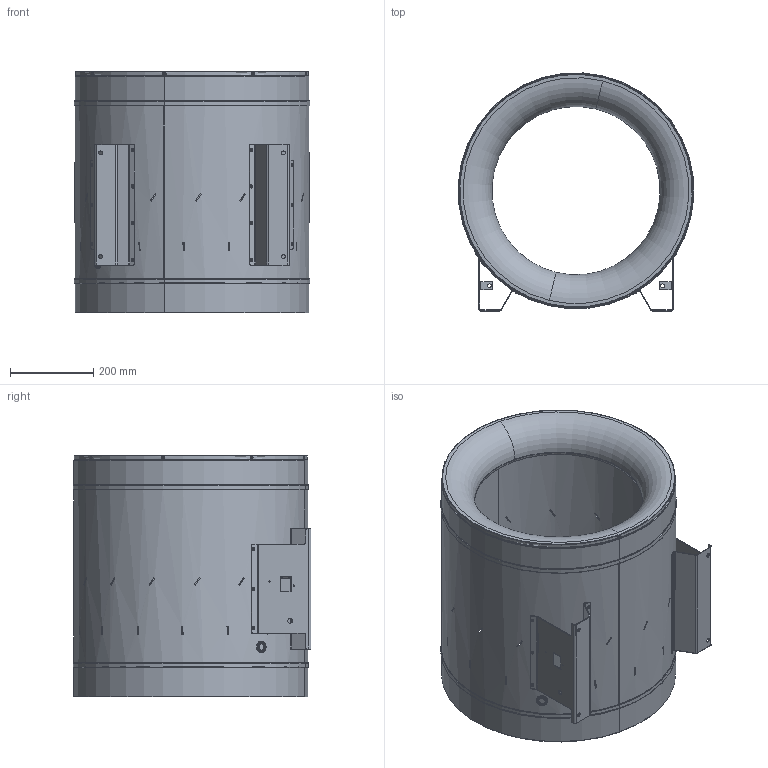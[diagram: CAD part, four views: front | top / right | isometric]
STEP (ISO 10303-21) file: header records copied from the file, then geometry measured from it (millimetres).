
FILE_DESCRIPTION (( 'STEP AP203' ), '1' );
FILE_NAME ('146537-00_EL560D402.STEP', '2018-06-08T09:34:44', ( '' ), ( '' ), 'SwSTEP 2.0', 'SolidWorks 2017', '' );
FILE_SCHEMA (( 'CONFIG_CONTROL_DESIGN' ));
Length unit declared in the file: millimetre
Products named in the file (1): 146537-00_EL560D402
Bounding box: 566.85 x 572.42 x 581.5 mm (x, y, z)
Surface area: 2484075.5 mm2 (no closed solid volume)
Topology: 0 solids, 46 shells, 406 faces, 1357 edges, 914 vertices
Faces by surface type: cylinder 130, torus 102, bspline 88, plane 86
Entity records: 17337 total; most frequent: CARTESIAN_POINT 6255, ORIENTED_EDGE 2151, DIRECTION 2054, EDGE_CURVE 1357, VERTEX_POINT 914, AXIS2_PLACEMENT_3D 869, EDGE_LOOP 563, CIRCLE 550
